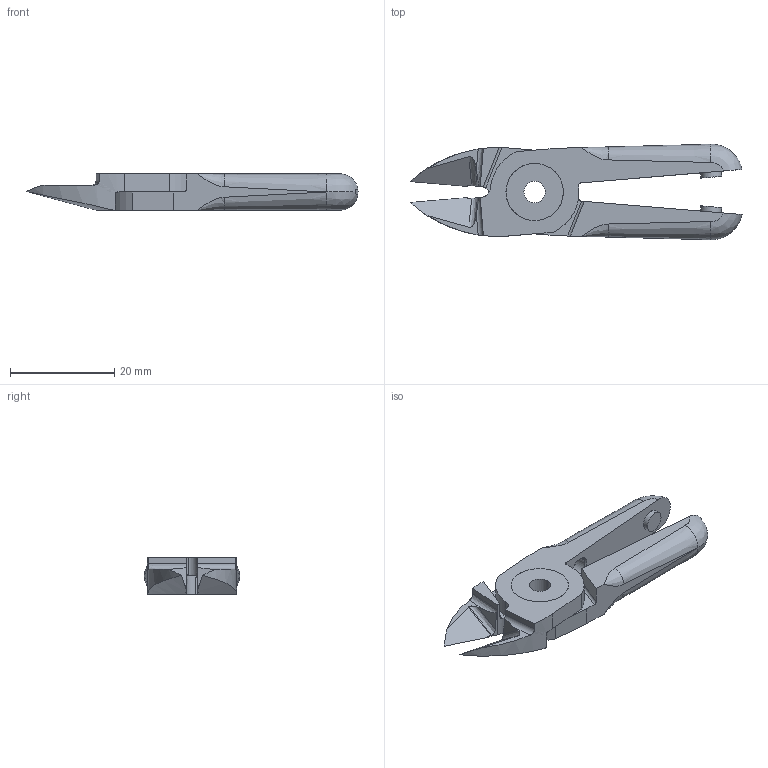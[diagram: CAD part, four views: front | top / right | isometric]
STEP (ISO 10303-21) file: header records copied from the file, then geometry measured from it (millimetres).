
FILE_DESCRIPTION (( 'STEP AP214' ), '1' );
FILE_NAME ('N5AP.STEP', '2019-11-29T03:18:27', ( '微软用户' ), ( '微软中国' ), 'SwSTEP 2.0', 'SolidWorks 2016', '' );
FILE_SCHEMA (( 'AUTOMOTIVE_DESIGN' ));
Length unit declared in the file: millimetre
Products named in the file (4): BR2; BR1; BS; N5AP
Assembly tree (3 placements, depth 2):
  N5AP
    BS
    BR1
    BR2
Bounding box: 63.69 x 18.33 x 7 mm (x, y, z)
Volume: 4335.3 mm3; surface area: 3878.5 mm2
Topology: 3 solids, 3 shells, 106 faces, 278 edges, 174 vertices
Faces by surface type: bspline 43, plane 38, cylinder 17, cone 8
Entity records: 4486 total; most frequent: CARTESIAN_POINT 2140, ORIENTED_EDGE 540, DIRECTION 354, EDGE_CURVE 270, VERTEX_POINT 174, VECTOR 130, LINE 130, EDGE_LOOP 116
